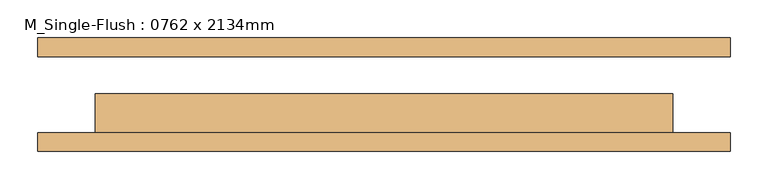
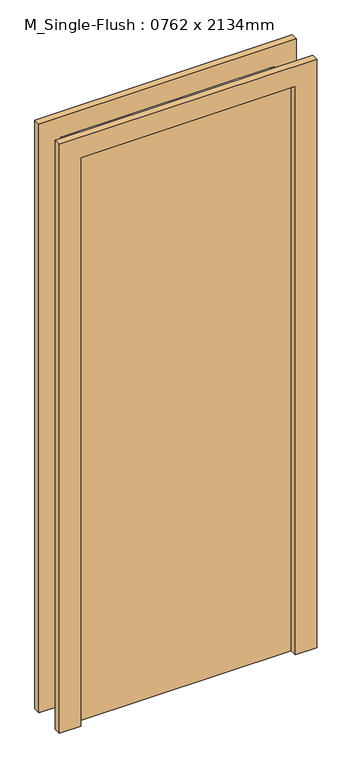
"""IFC4 building model written with IfcOpenShell, lengths in millimetres: door geometry, M_Single-Flush : 0762 x 2134mm."""

import ifcopenshell
import ifcopenshell.guid

model = None  # the IFC model being written
_history = None  # IfcOwnerHistory: only IFC2X3 demands one
_inside = {}  # id of a spatial element -> (the spatial element, [elements in it])
_under = {}  # id of a project, library or spatial element -> (it, [spatial elements below it])
_declared = {}  # id of a project -> (the project, [libraries it declares])
_typed = {}  # id of a type object -> (the type object, [elements of that type])
_made_of = {}  # id of a material, layer set ... -> (it, [elements and type objects made of it])


def new_model(schema):
    """Start an empty IFC model of exactly this schema.

    Asked for "IFC4X3", IfcOpenShell would pick the latest addendum, in which some entities
    have other attributes; the version numbers below select the first issue.
    IFC2X3 requires an IfcOwnerHistory on every rooted entity: one is made here for all.
    """
    global model, _history
    if schema == "IFC4X3":
        model = ifcopenshell.file(schema_version=(4, 3, 0, 0))
    else:
        model = ifcopenshell.file(schema=schema)
    _inside.clear()
    _under.clear()
    _declared.clear()
    _typed.clear()
    _made_of.clear()
    _history = None
    if model.schema == "IFC2X3":
        org = make("IfcOrganization", Name="unknown")
        user = make(
            "IfcPersonAndOrganization",
            ThePerson=make("IfcPerson", FamilyName="unknown"),
            TheOrganization=org,
        )
        app = make(
            "IfcApplication",
            ApplicationDeveloper=org,
            Version="unknown",
            ApplicationFullName="unknown",
            ApplicationIdentifier="unknown",
        )
        _history = make(
            "IfcOwnerHistory",
            OwningUser=user,
            OwningApplication=app,
            ChangeAction="ADDED",
            CreationDate=0,
        )
    return model


def make(cls, **values):
    """One entity of the class cls with the attributes given. An attribute that is None is left unset."""
    return model.create_entity(
        cls, **{name: value for name, value in values.items() if value is not None}
    )


def rooted(cls, **values):
    """An entity with a GlobalId (a new one), such as an element, a storey or a relation."""
    return make(cls, GlobalId=ifcopenshell.guid.new(), OwnerHistory=_history, **values)


def si_unit(unit_type, name, prefix=None):
    """IfcSIUnit, for example si_unit("LENGTHUNIT", "METRE", prefix="MILLI")."""
    return make("IfcSIUnit", UnitType=unit_type, Prefix=prefix, Name=name)


def assignment(units):
    """IfcUnitAssignment: the units of a project."""
    return None if units is None else make("IfcUnitAssignment", Units=units)


def point(xyz):
    """IfcCartesianPoint."""
    return None if xyz is None else make("IfcCartesianPoint", Coordinates=xyz)


def direction(xyz):
    """IfcDirection."""
    return None if xyz is None else make("IfcDirection", DirectionRatios=xyz)


def frame(location, z_axis=None, x_axis=None):
    """IfcAxis2Placement3D, a coordinate frame: its origin and axes. An axis left out is left unset."""
    return make(
        "IfcAxis2Placement3D",
        Location=point(location),
        Axis=direction(z_axis),
        RefDirection=direction(x_axis),
    )


def origin():
    """The frame at (0, 0, 0) with its axes left unset."""
    return frame((0.0, 0.0, 0.0))


def origin_with_axes():
    """The frame at (0, 0, 0) with the z axis (0, 0, 1) and the x axis (1, 0, 0) written out."""
    return frame((0.0, 0.0, 0.0), z_axis=(0.0, 0.0, 1.0), x_axis=(1.0, 0.0, 0.0))


def place(relative_to, where):
    """IfcLocalPlacement: puts the frame where relative to a parent placement (None: the world)."""
    return make(
        "IfcLocalPlacement", PlacementRelTo=relative_to, RelativePlacement=where
    )


def context(
    kind, dimensions, precision=None, world=None, true_north=None, identifier=None
):
    """IfcGeometricRepresentationContext, for example the 3D "Model" context."""
    return make(
        "IfcGeometricRepresentationContext",
        ContextIdentifier=identifier,
        ContextType=kind,
        CoordinateSpaceDimension=dimensions,
        Precision=precision,
        WorldCoordinateSystem=world,
        TrueNorth=true_north,
    )


def project(units=None, contexts=None):
    """IfcProject with its units and contexts."""
    return rooted(
        "IfcProject",
        Name="project",
        RepresentationContexts=contexts,
        UnitsInContext=assignment(units),
    )


def spatial(cls, under=None, at=None, **own):
    """A site, building, storey or space (cls), placed at a placement, below another one or the project."""
    s = rooted(cls, ObjectPlacement=at, **own)
    if under is not None:
        _under.setdefault(under.id(), (under, []))[1].append(s)
    return s


def polyline(points):
    """IfcPolyline through the points."""
    return make("IfcPolyline", Points=[point(p) for p in points])


def outline(outer, holes=None, kind="AREA"):
    """IfcArbitraryClosedProfileDef: a profile drawn as a closed curve; with holes, ...WithVoids."""
    if holes is None:
        return make("IfcArbitraryClosedProfileDef", ProfileType=kind, OuterCurve=outer)
    return make(
        "IfcArbitraryProfileDefWithVoids",
        ProfileType=kind,
        OuterCurve=outer,
        InnerCurves=holes,
    )


def extrude(swept, where, along, depth):
    """IfcExtrudedAreaSolid: the profile swept, set in the frame where, extruded along a direction by depth."""
    return make(
        "IfcExtrudedAreaSolid",
        SweptArea=swept,
        Position=where,
        ExtrudedDirection=direction(along),
        Depth=depth,
    )


def shape(context_of_items, identifier, shape_type, items):
    """IfcShapeRepresentation: the items that make up one representation, for example the "Body"."""
    return make(
        "IfcShapeRepresentation",
        ContextOfItems=context_of_items,
        RepresentationIdentifier=identifier,
        RepresentationType=shape_type,
        Items=items,
    )


def source(mapping_origin, context_of_items, identifier, shape_type, items):
    """IfcRepresentationMap: a shape defined once, which mapped items show again and again."""
    return make(
        "IfcRepresentationMap",
        MappingOrigin=mapping_origin,
        MappedRepresentation=shape(context_of_items, identifier, shape_type, items),
    )


def transform(
    local_origin,
    x_axis=None,
    y_axis=None,
    z_axis=None,
    scale=None,
    scale2=None,
    scale3=None,
    uniform=True,
):
    """IfcCartesianTransformationOperator3D, or its non-uniform kind. x_axis, y_axis, z_axis: its Axis1, 2, 3."""
    if uniform:
        return make(
            "IfcCartesianTransformationOperator3D",
            Axis1=direction(x_axis),
            Axis2=direction(y_axis),
            LocalOrigin=point(local_origin),
            Scale=scale,
            Axis3=direction(z_axis),
        )
    return make(
        "IfcCartesianTransformationOperator3DnonUniform",
        Axis1=direction(x_axis),
        Axis2=direction(y_axis),
        LocalOrigin=point(local_origin),
        Scale=scale,
        Axis3=direction(z_axis),
        Scale2=scale2,
        Scale3=scale3,
    )


def mapped(mapping_source, mapping_target):
    """IfcMappedItem: shows the shape of a source again, moved by a transform."""
    return make(
        "IfcMappedItem", MappingSource=mapping_source, MappingTarget=mapping_target
    )


def made_of(thing, what):
    """Note that an element or type object is made of a material, layer set ...; save() writes the relation."""
    if what is not None:
        _made_of.setdefault(what.id(), (what, []))[1].append(thing)
    return thing


def element(
    cls,
    number,
    at=None,
    inside=None,
    cuts=None,
    type_object=None,
    material=None,
    context=None,
    identifier="Body",
    shape_type=None,
    held_by="IfcProductDefinitionShape",
    body=None,
    shapes=None,
    **own,
):
    """One element of the class cls, such as IfcWall. Its Tag is "e" and its number.

    at: its placement. inside: the storey or other place that contains it. cuts: it is an
    opening in that element (IfcRelVoidsElement). A single representation is given by context,
    identifier, shape_type and body (its items); several are given by shapes. held_by: the class
    of the entity that holds the representations. save() writes the other relations.
    """
    e = rooted(cls, Tag="e%d" % number, ObjectPlacement=at, **own)
    if body is not None:
        shapes = [shape(context, identifier, shape_type, body)]
    if shapes is not None:
        e.Representation = make(held_by, Representations=shapes)
    if inside is not None:
        _inside.setdefault(inside.id(), (inside, []))[1].append(e)
    if cuts is not None:
        rooted(
            "IfcRelVoidsElement", RelatingBuildingElement=cuts, RelatedOpeningElement=e
        )
    if type_object is not None:
        _typed.setdefault(type_object.id(), (type_object, []))[1].append(e)
    return made_of(e, material)


def aggregate(whole, parts):
    """IfcRelAggregates: a whole, such as a stair, and the parts it consists of."""
    return rooted("IfcRelAggregates", RelatingObject=whole, RelatedObjects=parts)


def save(model, path):
    """Write the relations noted so far, then the file.

    IfcRelAggregates (storeys below a building ...), IfcRelContainedInSpatialStructure (elements
    in a storey), IfcRelDefinesByType, IfcRelAssociatesMaterial and IfcRelDeclares: one each for
    every whole, place, type object, material and project.
    """
    for whole, parts in _under.values():
        aggregate(whole, parts)
    for where, things in _inside.values():
        rooted(
            "IfcRelContainedInSpatialStructure",
            RelatedElements=things,
            RelatingStructure=where,
        )
    for kind, things in _typed.values():
        rooted("IfcRelDefinesByType", RelatedObjects=things, RelatingType=kind)
    for what, things in _made_of.values():
        rooted("IfcRelAssociatesMaterial", RelatedObjects=things, RelatingMaterial=what)
    for by, libraries in _declared.values():
        rooted("IfcRelDeclares", RelatingContext=by, RelatedDefinitions=libraries)
    model.write(path)


def m_single_flush_0762_x_2134mm_2f099e9c(model_context):
    return source(origin(), model_context, "Body", "SweptSolid", [
        extrude(outline(polyline([(2210.0, -457.0), (0.0, -457.0), (0.0, -381.0), (2134.0, -381.0), (2134.0, 381.0), (0.0, 381.0), (0.0, 457.0), (2210.0, 457.0), (2210.0, -457.0)])), frame((0.0, -75.0, 0.0), z_axis=(0.0, 1.0, 0.0), x_axis=(0.0, 0.0, 1.0)), (0.0, 0.0, 1.0), 25.0),
        extrude(outline(polyline([(2210.0, 457.0), (2210.0, -457.0), (0.0, -457.0), (0.0, -381.0), (2134.0, -381.0), (2134.0, 381.0), (0.0, 381.0), (0.0, 457.0), (2210.0, 457.0)])), frame((0.0, 50.0, 0.0), z_axis=(0.0, 1.0, 0.0), x_axis=(0.0, 0.0, 1.0)), (0.0, 0.0, 1.0), 25.0),
        extrude(outline(polyline([(381.0, 1.0), (381.0, -50.0), (-381.0, -50.0), (-381.0, 1.0), (381.0, 1.0)])), origin_with_axes(), (0.0, 0.0, 1.0), 2134.0),
    ])


if __name__ == "__main__":
    model = new_model("IFC4")
    model_context = context("Model", 3, world=origin())
    ifc_project = project(units=[si_unit("LENGTHUNIT", "METRE", prefix="MILLI")], contexts=[model_context])
    site = spatial("IfcSite", under=ifc_project)
    building = spatial("IfcBuilding", under=site)
    placement = place(None, origin())
    m_single_flush_0762_x_2134mm_shape = m_single_flush_0762_x_2134mm_2f099e9c(model_context)
    element("IfcDoor", 1, ObjectType="M_Single-Flush : 0762 x 2134mm", at=placement, inside=building, context=model_context, shape_type="MappedRepresentation", body=[
        mapped(m_single_flush_0762_x_2134mm_shape, transform((0.0, 0.0, 0.0), x_axis=(1.0, 0.0, 0.0), y_axis=(0.0, 1.0, 0.0), z_axis=(0.0, 0.0, 1.0))),
    ])
    save(model, "model.ifc")
